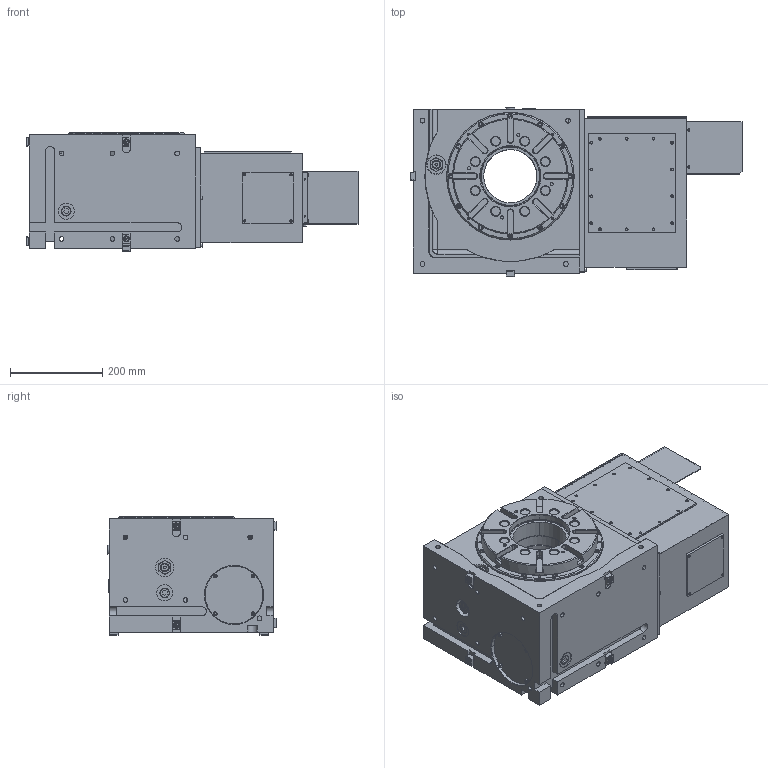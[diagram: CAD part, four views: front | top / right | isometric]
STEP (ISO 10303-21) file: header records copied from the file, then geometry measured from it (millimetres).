
FILE_DESCRIPTION (( 'STEP AP203' ), '1' );
FILE_NAME ('15091562-MDX253R-17.STEP', '2020-11-25T22:46:01', ( '' ), ( '' ), 'SwSTEP 2.0', 'SolidWorks 2019', '' );
FILE_SCHEMA (( 'CONFIG_CONTROL_DESIGN' ));
Length unit declared in the file: millimetre
Products named in the file (1): 15091562-MDX253R-17
Bounding box: 718 x 366 x 257 mm (x, y, z)
Surface area: 1452022 mm2 (no closed solid volume)
Topology: 0 solids, 164 shells, 1702 faces, 5236 edges, 3576 vertices
Faces by surface type: plane 808, cylinder 592, cone 177, torus 124, sphere 1
Entity records: 58462 total; most frequent: CARTESIAN_POINT 10876, DIRECTION 10646, ORIENTED_EDGE 8281, EDGE_CURVE 5182, AXIS2_PLACEMENT_3D 3850, VERTEX_POINT 3576, LINE 2946, VECTOR 2946
